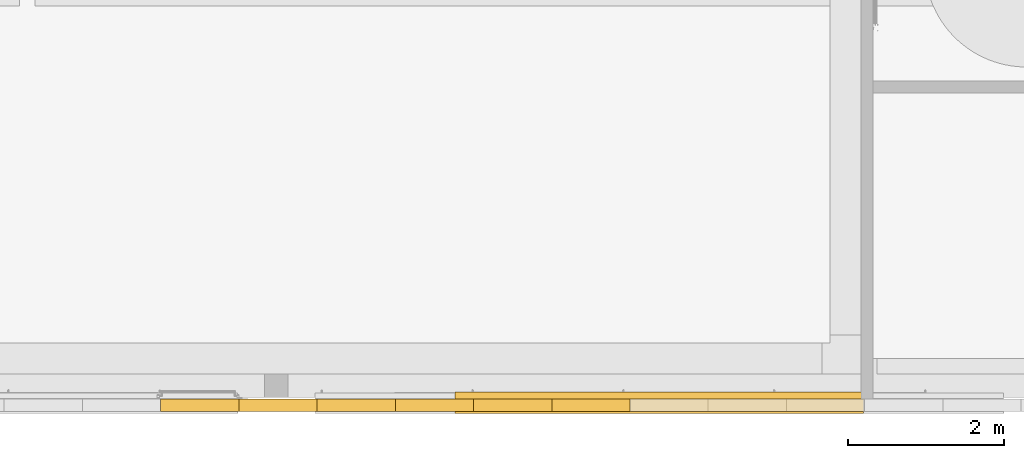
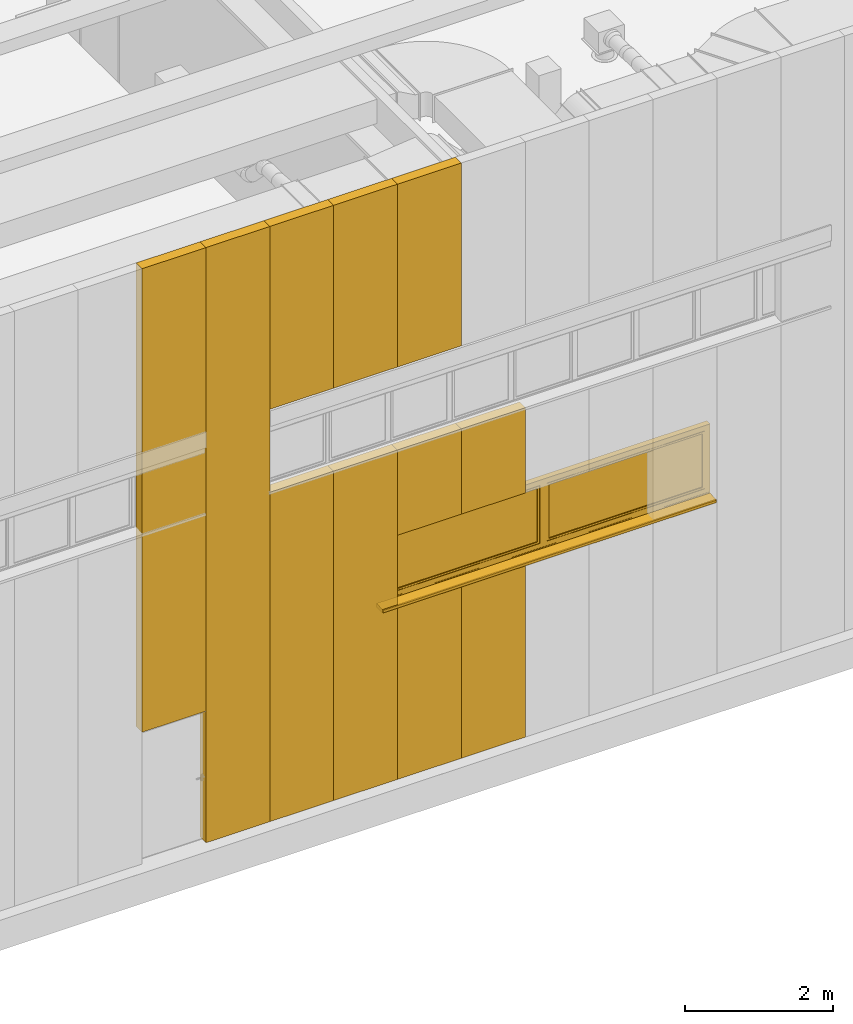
# One storey, part 223 of 302: 12 curtain walls, 1 window, 1 opening, 1 element without a shape of its own.
"""IFC2X3 building model written with IfcOpenShell, lengths in metres."""

import ifcopenshell
import ifcopenshell.guid

model = None  # the IFC model being written
_history = None  # IfcOwnerHistory: only IFC2X3 demands one
_inside = {}  # id of a spatial element -> (the spatial element, [elements in it])
_under = {}  # id of a project, library or spatial element -> (it, [spatial elements below it])
_declared = {}  # id of a project -> (the project, [libraries it declares])
_typed = {}  # id of a type object -> (the type object, [elements of that type])
_made_of = {}  # id of a material, layer set ... -> (it, [elements and type objects made of it])


def new_model(schema):
    """Start an empty IFC model of exactly this schema.

    Asked for "IFC4X3", IfcOpenShell would pick the latest addendum, in which some entities
    have other attributes; the version numbers below select the first issue.
    IFC2X3 requires an IfcOwnerHistory on every rooted entity: one is made here for all.
    """
    global model, _history
    if schema == "IFC4X3":
        model = ifcopenshell.file(schema_version=(4, 3, 0, 0))
    else:
        model = ifcopenshell.file(schema=schema)
    _inside.clear()
    _under.clear()
    _declared.clear()
    _typed.clear()
    _made_of.clear()
    _history = None
    if model.schema == "IFC2X3":
        org = make("IfcOrganization", Name="unknown")
        user = make(
            "IfcPersonAndOrganization",
            ThePerson=make("IfcPerson", FamilyName="unknown"),
            TheOrganization=org,
        )
        app = make(
            "IfcApplication",
            ApplicationDeveloper=org,
            Version="unknown",
            ApplicationFullName="unknown",
            ApplicationIdentifier="unknown",
        )
        _history = make(
            "IfcOwnerHistory",
            OwningUser=user,
            OwningApplication=app,
            ChangeAction="ADDED",
            CreationDate=0,
        )
    return model


def make(cls, **values):
    """One entity of the class cls with the attributes given. An attribute that is None is left unset."""
    return model.create_entity(
        cls, **{name: value for name, value in values.items() if value is not None}
    )


def entity(cls, *values):
    """Any entity or typed value of the class cls, its attributes in the order of the schema. None: left unset."""
    e = model.create_entity(cls)
    for i, value in enumerate(values):
        if value is not None:
            e[i] = value
    return e


def rooted(cls, **values):
    """An entity with a GlobalId (a new one), such as an element, a storey or a relation."""
    return make(cls, GlobalId=ifcopenshell.guid.new(), OwnerHistory=_history, **values)


def si_unit(unit_type, name, prefix=None):
    """IfcSIUnit, for example si_unit("LENGTHUNIT", "METRE", prefix="MILLI")."""
    return make("IfcSIUnit", UnitType=unit_type, Prefix=prefix, Name=name)


def converted_unit(unit_type, name, factor, base, dimensions=None, offset=None):
    """IfcConversionBasedUnit, such as the inch: factor (a typed value) times the base unit."""
    return make(
        "IfcConversionBasedUnit"
        if offset is None
        else "IfcConversionBasedUnitWithOffset",
        ConversionOffset=offset,
        Dimensions=None
        if dimensions is None
        else entity("IfcDimensionalExponents", *dimensions),
        UnitType=unit_type,
        Name=name,
        ConversionFactor=make(
            "IfcMeasureWithUnit", ValueComponent=factor, UnitComponent=base
        ),
    )


def derived_unit(unit_type, elements):
    """IfcDerivedUnit: a product of units, each with its exponent."""
    return make(
        "IfcDerivedUnit",
        Elements=[
            make("IfcDerivedUnitElement", Unit=unit, Exponent=power)
            for unit, power in elements
        ],
        UnitType=unit_type,
    )


def assignment(units):
    """IfcUnitAssignment: the units of a project."""
    return None if units is None else make("IfcUnitAssignment", Units=units)


def point(xyz):
    """IfcCartesianPoint."""
    return None if xyz is None else make("IfcCartesianPoint", Coordinates=xyz)


def direction(xyz):
    """IfcDirection."""
    return None if xyz is None else make("IfcDirection", DirectionRatios=xyz)


def frame(location, z_axis=None, x_axis=None):
    """IfcAxis2Placement3D, a coordinate frame: its origin and axes. An axis left out is left unset."""
    return make(
        "IfcAxis2Placement3D",
        Location=point(location),
        Axis=direction(z_axis),
        RefDirection=direction(x_axis),
    )


def frame_2d(location, x_axis=None):
    """IfcAxis2Placement2D, a coordinate frame in the plane: its origin and x axis."""
    return make(
        "IfcAxis2Placement2D", Location=point(location), RefDirection=direction(x_axis)
    )


def origin():
    """The frame at (0, 0, 0) with its axes left unset."""
    return frame((0.0, 0.0, 0.0))


def place(relative_to, where):
    """IfcLocalPlacement: puts the frame where relative to a parent placement (None: the world)."""
    return make(
        "IfcLocalPlacement", PlacementRelTo=relative_to, RelativePlacement=where
    )


def context(
    kind, dimensions, precision=None, world=None, true_north=None, identifier=None
):
    """IfcGeometricRepresentationContext, for example the 3D "Model" context."""
    return make(
        "IfcGeometricRepresentationContext",
        ContextIdentifier=identifier,
        ContextType=kind,
        CoordinateSpaceDimension=dimensions,
        Precision=precision,
        WorldCoordinateSystem=world,
        TrueNorth=true_north,
    )


def subcontext(parent, identifier, kind, view, scale=None):
    """IfcGeometricRepresentationSubContext, for example "Body" below "Model"."""
    return make(
        "IfcGeometricRepresentationSubContext",
        ContextIdentifier=identifier,
        ContextType=kind,
        ParentContext=parent,
        TargetScale=scale,
        TargetView=view,
    )


def project(units=None, contexts=None):
    """IfcProject with its units and contexts."""
    return rooted(
        "IfcProject",
        Name="project",
        RepresentationContexts=contexts,
        UnitsInContext=assignment(units),
    )


def spatial(cls, under=None, at=None, **own):
    """A site, building, storey or space (cls), placed at a placement, below another one or the project."""
    s = rooted(cls, ObjectPlacement=at, **own)
    if under is not None:
        _under.setdefault(under.id(), (under, []))[1].append(s)
    return s


def profile(cls, at=None, kind="AREA", **sizes):
    """A parametric profile (cls). Its sizes go by their IFC names, for example OverallWidth=200.0."""
    return make(cls, ProfileType=kind, Position=at, **sizes)


def rectangle(**sizes):
    """IfcRectangleProfileDef."""
    return profile("IfcRectangleProfileDef", **sizes)


def extrude(swept, where, along, depth):
    """IfcExtrudedAreaSolid: the profile swept, set in the frame where, extruded along a direction by depth."""
    return make(
        "IfcExtrudedAreaSolid",
        SweptArea=swept,
        Position=where,
        ExtrudedDirection=direction(along),
        Depth=depth,
    )


def faces_of(points, faces, orient=None, outer=None):
    """IfcFace entities. A face is a list of loops; a loop is a list of indices into points, from 0.

    orient and outer hold one flag for each loop. By default every Orientation is true, the
    first loop of a face is its IfcFaceOuterBound and the others are IfcFaceBound.
    """
    made = []
    for i, loops in enumerate(faces):
        bounds = []
        for j, loop in enumerate(loops):
            is_outer = j == 0 if outer is None else outer[i][j]
            bounds.append(
                make(
                    "IfcFaceOuterBound" if is_outer else "IfcFaceBound",
                    Bound=make("IfcPolyLoop", Polygon=[points[k] for k in loop]),
                    Orientation=True if orient is None else orient[i][j],
                )
            )
        made.append(make("IfcFace", Bounds=bounds))
    return made


def faceted_brep(points, faces, orient=None, outer=None, voids=None):
    """IfcFacetedBrep: a solid bounded by flat faces; with voids (closed shells), ...WithVoids."""
    shared = [point(p) for p in points]
    hull = make("IfcClosedShell", CfsFaces=faces_of(shared, faces, orient, outer))
    if voids is None:
        return make("IfcFacetedBrep", Outer=hull)
    return make(
        "IfcFacetedBrepWithVoids",
        Outer=hull,
        Voids=[
            make(cls, CfsFaces=faces_of(shared, fs, o, b)) for cls, fs, o, b in voids
        ],
    )


def shape(context_of_items, identifier, shape_type, items):
    """IfcShapeRepresentation: the items that make up one representation, for example the "Body"."""
    return make(
        "IfcShapeRepresentation",
        ContextOfItems=context_of_items,
        RepresentationIdentifier=identifier,
        RepresentationType=shape_type,
        Items=items,
    )


def source(mapping_origin, context_of_items, identifier, shape_type, items):
    """IfcRepresentationMap: a shape defined once, which mapped items show again and again."""
    return make(
        "IfcRepresentationMap",
        MappingOrigin=mapping_origin,
        MappedRepresentation=shape(context_of_items, identifier, shape_type, items),
    )


def transform(
    local_origin,
    x_axis=None,
    y_axis=None,
    z_axis=None,
    scale=None,
    scale2=None,
    scale3=None,
    uniform=True,
):
    """IfcCartesianTransformationOperator3D, or its non-uniform kind. x_axis, y_axis, z_axis: its Axis1, 2, 3."""
    if uniform:
        return make(
            "IfcCartesianTransformationOperator3D",
            Axis1=direction(x_axis),
            Axis2=direction(y_axis),
            LocalOrigin=point(local_origin),
            Scale=scale,
            Axis3=direction(z_axis),
        )
    return make(
        "IfcCartesianTransformationOperator3DnonUniform",
        Axis1=direction(x_axis),
        Axis2=direction(y_axis),
        LocalOrigin=point(local_origin),
        Scale=scale,
        Axis3=direction(z_axis),
        Scale2=scale2,
        Scale3=scale3,
    )


def mapped(mapping_source, mapping_target):
    """IfcMappedItem: shows the shape of a source again, moved by a transform."""
    return make(
        "IfcMappedItem", MappingSource=mapping_source, MappingTarget=mapping_target
    )


def material(Name=None, Category=None):
    """IfcMaterial."""
    return make("IfcMaterial", Name=Name, Category=Category)


def material_list(materials):
    """IfcMaterialList."""
    return make("IfcMaterialList", Materials=materials)


def layer(
    of_material, thickness, ventilated=None, Name=None, Category=None, Priority=None
):
    """IfcMaterialLayer: one layer of a wall or slab, of a material (None: an air gap)."""
    return make(
        "IfcMaterialLayer",
        Material=of_material,
        LayerThickness=thickness,
        IsVentilated=ventilated,
        Name=Name,
        Category=Category,
        Priority=Priority,
    )


def layer_set(layers, Name=None):
    """IfcMaterialLayerSet."""
    return make("IfcMaterialLayerSet", MaterialLayers=layers, LayerSetName=Name)


def layer_usage(for_layer_set, set_direction, sense, offset, extent=None):
    """IfcMaterialLayerSetUsage: how a layer set lies in its element."""
    return make(
        "IfcMaterialLayerSetUsage",
        ForLayerSet=for_layer_set,
        LayerSetDirection=set_direction,
        DirectionSense=sense,
        OffsetFromReferenceLine=offset,
        ReferenceExtent=extent,
    )


def made_of(thing, what):
    """Note that an element or type object is made of a material, layer set ...; save() writes the relation."""
    if what is not None:
        _made_of.setdefault(what.id(), (what, []))[1].append(thing)
    return thing


def type_object(cls, material=None, **own):
    """A type object (cls), such as IfcWallType, which elements share."""
    return made_of(rooted(cls, **own), material)


def type_shapes(of_type, sources):
    """Give a type object the sources (RepresentationMaps) that its elements show as mapped items."""
    of_type.RepresentationMaps = sources


def element(
    cls,
    number,
    at=None,
    inside=None,
    cuts=None,
    type_object=None,
    material=None,
    context=None,
    identifier="Body",
    shape_type=None,
    held_by="IfcProductDefinitionShape",
    body=None,
    shapes=None,
    **own,
):
    """One element of the class cls, such as IfcWall. Its Tag is "e" and its number.

    at: its placement. inside: the storey or other place that contains it. cuts: it is an
    opening in that element (IfcRelVoidsElement). A single representation is given by context,
    identifier, shape_type and body (its items); several are given by shapes. held_by: the class
    of the entity that holds the representations. save() writes the other relations.
    """
    e = rooted(cls, Tag="e%d" % number, ObjectPlacement=at, **own)
    if body is not None:
        shapes = [shape(context, identifier, shape_type, body)]
    if shapes is not None:
        e.Representation = make(held_by, Representations=shapes)
    if inside is not None:
        _inside.setdefault(inside.id(), (inside, []))[1].append(e)
    if cuts is not None:
        rooted(
            "IfcRelVoidsElement", RelatingBuildingElement=cuts, RelatedOpeningElement=e
        )
    if type_object is not None:
        _typed.setdefault(type_object.id(), (type_object, []))[1].append(e)
    return made_of(e, material)


def fill(opening, filler):
    """IfcRelFillsElement: the door or window that sits in an opening."""
    return rooted(
        "IfcRelFillsElement",
        RelatingOpeningElement=opening,
        RelatedBuildingElement=filler,
    )


def aggregate(whole, parts):
    """IfcRelAggregates: a whole, such as a stair, and the parts it consists of."""
    return rooted("IfcRelAggregates", RelatingObject=whole, RelatedObjects=parts)


def save(model, path):
    """Write the relations noted so far, then the file.

    IfcRelAggregates (storeys below a building ...), IfcRelContainedInSpatialStructure (elements
    in a storey), IfcRelDefinesByType, IfcRelAssociatesMaterial and IfcRelDeclares: one each for
    every whole, place, type object, material and project.
    """
    for whole, parts in _under.values():
        aggregate(whole, parts)
    for where, things in _inside.values():
        rooted(
            "IfcRelContainedInSpatialStructure",
            RelatedElements=things,
            RelatingStructure=where,
        )
    for kind, things in _typed.values():
        rooted("IfcRelDefinesByType", RelatedObjects=things, RelatingType=kind)
    for what, things in _made_of.values():
        rooted("IfcRelAssociatesMaterial", RelatedObjects=things, RelatingMaterial=what)
    for by, libraries in _declared.values():
        rooted("IfcRelDeclares", RelatingContext=by, RelatedDefinitions=libraries)
    model.write(path)


model = new_model("IFC2X3")

# Units and contexts
model_context = context("Model", 3, precision=1e-05, world=origin(), true_north=direction((6.12303176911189e-17, 1.0)))
body_context = subcontext(model_context, "Body", "Model", "MODEL_VIEW")
ifc_project = project(units=[si_unit("LENGTHUNIT", "METRE"), si_unit("AREAUNIT", "SQUARE_METRE"), si_unit("VOLUMEUNIT", "CUBIC_METRE"), converted_unit("PLANEANGLEUNIT", "DEGREE", entity("IfcRatioMeasure", 0.0174532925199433), si_unit("PLANEANGLEUNIT", "RADIAN"), dimensions=[0, 0, 0, 0, 0, 0, 0]), si_unit("MASSUNIT", "GRAM", prefix="KILO"), derived_unit("MASSDENSITYUNIT", [(si_unit("MASSUNIT", "GRAM", prefix="KILO"), 1), (si_unit("LENGTHUNIT", "METRE"), -3)]), derived_unit("MOMENTOFINERTIAUNIT", [(si_unit("LENGTHUNIT", "METRE"), 4)]), si_unit("TIMEUNIT", "SECOND"), si_unit("FREQUENCYUNIT", "HERTZ"), si_unit("THERMODYNAMICTEMPERATUREUNIT", "DEGREE_CELSIUS"), derived_unit("THERMALTRANSMITTANCEUNIT", [(si_unit("MASSUNIT", "GRAM", prefix="KILO"), 1), (si_unit("THERMODYNAMICTEMPERATUREUNIT", "KELVIN"), -1), (si_unit("TIMEUNIT", "SECOND"), -3)]), derived_unit("VOLUMETRICFLOWRATEUNIT", [(si_unit("LENGTHUNIT", "METRE"), 3), (si_unit("TIMEUNIT", "SECOND"), -1)]), si_unit("ELECTRICCURRENTUNIT", "AMPERE"), si_unit("ELECTRICVOLTAGEUNIT", "VOLT"), si_unit("POWERUNIT", "WATT"), si_unit("FORCEUNIT", "NEWTON", prefix="KILO"), si_unit("ILLUMINANCEUNIT", "LUX"), si_unit("LUMINOUSFLUXUNIT", "LUMEN"), si_unit("LUMINOUSINTENSITYUNIT", "CANDELA"), derived_unit("USERDEFINED", [(si_unit("MASSUNIT", "GRAM", prefix="KILO"), -1), (si_unit("LENGTHUNIT", "METRE"), -2), (si_unit("TIMEUNIT", "SECOND"), 3), (si_unit("LUMINOUSFLUXUNIT", "LUMEN"), 1)]), derived_unit("LINEARVELOCITYUNIT", [(si_unit("LENGTHUNIT", "METRE"), 1), (si_unit("TIMEUNIT", "SECOND"), -1)]), si_unit("PRESSUREUNIT", "PASCAL"), derived_unit("USERDEFINED", [(si_unit("LENGTHUNIT", "METRE"), -2), (si_unit("MASSUNIT", "GRAM", prefix="KILO"), 1), (si_unit("TIMEUNIT", "SECOND"), -2)]), derived_unit("LINEARFORCEUNIT", [(si_unit("MASSUNIT", "GRAM", prefix="KILO"), 1), (si_unit("LENGTHUNIT", "METRE"), 1), (si_unit("TIMEUNIT", "SECOND"), -2), (si_unit("LENGTHUNIT", "METRE"), -1)]), derived_unit("PLANARFORCEUNIT", [(si_unit("MASSUNIT", "GRAM", prefix="KILO"), 1), (si_unit("LENGTHUNIT", "METRE"), 1), (si_unit("TIMEUNIT", "SECOND"), -2), (si_unit("LENGTHUNIT", "METRE"), -2)])], contexts=[model_context])

# Site, building, storey
site_placement = place(None, origin())
site = spatial("IfcSite", under=ifc_project, at=site_placement, Name="Default", CompositionType="ELEMENT")
building_placement = place(site_placement, origin())
building = spatial("IfcBuilding", under=site, at=building_placement, CompositionType="ELEMENT")
storey_placement = place(building_placement, frame((0.0, 0.0, -1.3)))
storey = spatial("IfcBuildingStorey", under=building, at=storey_placement, Name="00_EG", CompositionType="ELEMENT", Elevation=-1.3)

# Curtain walls, opening, window
curtain_wall_type_1 = type_object("IfcCurtainWallType", Name="Fassade:Sandwichpaneele 16cm", PredefinedType="NOTDEFINED")
curtain_wall_1_placement = place(storey_placement, frame((0.0, 0.0, 1.3)))
curtain_wall_1 = element("IfcCurtainWall", 1, at=curtain_wall_1_placement, inside=storey, type_object=curtain_wall_type_1, Name="Fassade:Sandwichpaneele 16cm", ObjectType="Fassade:Sandwichpaneele 16cm")
ifc_material_1 = material(Name="Prepainted_Steel-ArcelorMittal_Construction_HAIRULTRA-35-CORAL-4309-[RAL_3000]")
ifc_layer_1 = layer(ifc_material_1, 0.015)
ifc_material_2 = material(Name="ArcelorMittal-MineralWool")
ifc_layer_2 = layer(ifc_material_2, 0.13)
ifc_material_3 = material(Name="Prepainted_Steel-ArcelorMittal_Construction_INTÉRIEUR-12-WHITE-912")
ifc_layer_3 = layer(ifc_material_3, 0.015)
ifc_layer_set = layer_set([ifc_layer_1, ifc_layer_2, ifc_layer_3], Name="Fassade:Sandwichpaneele 16cm")
ifc_layer_usage_1 = layer_usage(ifc_layer_set, "AXIS2", "POSITIVE", -0.08)
curtain_wall_type_2 = type_object("IfcCurtainWallType", Name="Basiswand:Sandwichpaneele d = 16cm aussen", PredefinedType="NOTDEFINED", material=ifc_layer_set)
curtain_wall_2_placement = place(storey_placement, frame((-226.840111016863, 14.898088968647, 1.27)))
curtain_wall_2 = element("IfcCurtainWall", 2, at=curtain_wall_2_placement, type_object=curtain_wall_type_2, material=ifc_layer_usage_1, Name="Basiswand:Sandwichpaneele d = 16cm aussen", ObjectType="Basiswand:Sandwichpaneele d = 16cm aussen", context=body_context, shape_type="SweptSolid", body=[
    extrude(rectangle(XDim=1.00000000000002, YDim=0.159999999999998, at=frame_2d((0.500000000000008, 0.0), x_axis=(-1.0, 0.0))), origin(), (0.0, 0.0, 1.0), 5.44999999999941),
])
ifc_layer_usage_2 = layer_usage(ifc_layer_set, "AXIS2", "POSITIVE", -0.08)
curtain_wall_3_placement = place(storey_placement, frame((-225.840111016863, 14.898088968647, 1.27)))
curtain_wall_3 = element("IfcCurtainWall", 3, at=curtain_wall_3_placement, type_object=curtain_wall_type_2, material=ifc_layer_usage_2, Name="Basiswand:Sandwichpaneele d = 16cm aussen", ObjectType="Basiswand:Sandwichpaneele d = 16cm aussen", context=body_context, shape_type="SweptSolid", body=[
    extrude(rectangle(XDim=0.999999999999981, YDim=0.159999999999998, at=frame_2d((0.49999999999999, 0.0), x_axis=(-1.0, 0.0))), origin(), (0.0, 0.0, 1.0), 5.44999999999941),
])
ifc_layer_usage_3 = layer_usage(ifc_layer_set, "AXIS2", "POSITIVE", -0.08)
curtain_wall_4_placement = place(storey_placement, frame((-224.840111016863, 14.898088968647, 1.27)))
curtain_wall_4 = element("IfcCurtainWall", 4, at=curtain_wall_4_placement, type_object=curtain_wall_type_2, material=ifc_layer_usage_3, Name="Basiswand:Sandwichpaneele d = 16cm aussen", ObjectType="Basiswand:Sandwichpaneele d = 16cm aussen", context=body_context, shape_type="SweptSolid", body=[
    extrude(rectangle(XDim=0.999999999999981, YDim=0.159999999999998, at=frame_2d((0.49999999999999, 0.0), x_axis=(-1.0, 0.0))), origin(), (0.0, 0.0, 1.0), 2.83599999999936),
])
ifc_layer_usage_4 = layer_usage(ifc_layer_set, "AXIS2", "POSITIVE", -0.08)
curtain_wall_5_placement = place(storey_placement, frame((-223.840111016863, 14.898088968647, 1.27)))
curtain_wall_5 = element("IfcCurtainWall", 5, at=curtain_wall_5_placement, type_object=curtain_wall_type_2, material=ifc_layer_usage_4, Name="Basiswand:Sandwichpaneele d = 16cm aussen", ObjectType="Basiswand:Sandwichpaneele d = 16cm aussen", context=body_context, shape_type="SweptSolid", body=[
    extrude(rectangle(XDim=1.00000000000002, YDim=0.159999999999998, at=frame_2d((0.500000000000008, 0.0), x_axis=(-1.0, 0.0))), origin(), (0.0, 0.0, 1.0), 2.83599999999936),
])
ifc_layer_usage_5 = layer_usage(ifc_layer_set, "AXIS2", "POSITIVE", -0.08)
curtain_wall_6_placement = place(storey_placement, frame((-227.840111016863, 14.898088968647, 1.27)))
curtain_wall_6 = element("IfcCurtainWall", 6, at=curtain_wall_6_placement, type_object=curtain_wall_type_2, material=ifc_layer_usage_5, Name="Basiswand:Sandwichpaneele d = 16cm aussen", ObjectType="Basiswand:Sandwichpaneele d = 16cm aussen", context=body_context, shape_type="SweptSolid", body=[
    extrude(rectangle(XDim=1.00000000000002, YDim=0.159999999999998, at=frame_2d((0.500000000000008, 0.0), x_axis=(-1.0, 0.0))), origin(), (0.0, 0.0, 1.0), 9.8509),
])
ifc_layer_usage_6 = layer_usage(ifc_layer_set, "AXIS2", "POSITIVE", -0.08)
curtain_wall_7_placement = place(storey_placement, frame((-225.076361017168, 14.898088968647, 4.10599999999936)))
curtain_wall_7 = element("IfcCurtainWall", 7, at=curtain_wall_7_placement, type_object=curtain_wall_type_2, material=ifc_layer_usage_6, Name="Basiswand:Sandwichpaneele d = 16cm aussen", ObjectType="Basiswand:Sandwichpaneele d = 16cm aussen", context=body_context, shape_type="SweptSolid", body=[
    extrude(rectangle(XDim=5.21999999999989, YDim=0.159999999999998, at=frame_2d((2.60999999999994, 0.0), x_axis=(-1.0, 0.0))), origin(), (0.0, 0.0, 1.0), 0.0640000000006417),
])
opening_placement = place(curtain_wall_7_placement, frame((0.0, -0.0800000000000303, 0.0540000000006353)))
opening = element("IfcOpeningElement", 8, at=opening_placement, cuts=curtain_wall_7, Name="Basiswand:Sandwichpaneele d = 16cm aussen", ObjectType="Opening", context=body_context, shape_type="Brep", body=[
    faceted_brep([(0.0, 0.160000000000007, 1.14999999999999), (5.22000000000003, 0.159999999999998, 1.14999999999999), (5.22000000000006, 0.16, 0.0100000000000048), (0.0, 0.160000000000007, 0.0100000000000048), (0.0, 0.0, 1.14999999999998), (0.0, 0.0, 0.0), (5.21999999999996, 0.0, 0.0), (5.21999999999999, 0.0, 1.14999999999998)], [[[0, 1, 2, 3]], [[4, 5, 6, 7]], [[5, 4, 0, 3]], [[6, 5, 3, 2]], [[7, 6, 2, 1]], [[4, 7, 1, 0]]]),
])
ifc_material_4 = material(Name="Glass")
ifc_material_5 = material(Name="Aluminium")
ifc_material_6 = material(Name="Holz - generisch 140-100-70")
ifc_material_list_1 = material_list([ifc_material_1, ifc_material_4, ifc_material_5, ifc_material_6])
ifc_material_7 = material(Name="<Unnamed>")
ifc_material_list_2 = material_list([ifc_material_1, ifc_material_4, ifc_material_7, ifc_material_5])
window_style = type_object("IfcWindowStyle", Name="FE 2 tlg - konfigurierbar:Fenster 2 tgl 5220 x 1240", ConstructionType="NOTDEFINED", OperationType="NOTDEFINED", ParameterTakesPrecedence=False, Sizeable=False, material=ifc_material_list_2)
shared_shape = source(origin(), body_context, "Body", "Brep", [
    faceted_brep([(5.1, -0.089999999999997, 1.02999999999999), (5.1, 0.0, 1.02999999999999), (5.1, 0.0, 0.139999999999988), (5.1, -0.0899999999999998, 0.139999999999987), (5.13, 0.0, 0.109999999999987), (2.67, 0.0, 0.109999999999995), (2.67, 0.0, 1.05999999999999), (5.13, 0.0, 1.05999999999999), (2.7, 0.0, 1.02999999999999), (2.7, 0.0, 0.139999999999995), (2.7, -0.0899999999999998, 0.139999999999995), (2.7, -0.089999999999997, 1.02999999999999), (5.17, -0.0899999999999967, 1.09999999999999), (2.63, -0.0899999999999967, 1.09999999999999), (2.63, -0.0899999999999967, 0.0699999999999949), (5.17, -0.0899999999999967, 0.0699999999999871), (5.17, -0.074999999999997, 1.09999999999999), (5.17, -0.0750000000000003, 0.0699999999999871), (2.63, -0.0750000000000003, 0.0699999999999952), (2.63, -0.074999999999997, 1.09999999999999), (5.155, -0.0749999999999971, 1.08499999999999), (2.645, -0.0749999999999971, 1.08499999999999), (2.645, -0.0749999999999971, 0.0849999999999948), (5.155, -0.0749999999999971, 0.0849999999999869), (5.155, -0.0449999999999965, 1.08499999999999), (5.155, -0.0449999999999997, 0.0849999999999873), (2.645, -0.0449999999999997, 0.084999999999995), (2.645, -0.0449999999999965, 1.08499999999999), (5.145, -0.0449999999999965, 1.07499999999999), (2.655, -0.0449999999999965, 1.07499999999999), (2.655, -0.0449999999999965, 0.0949999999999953), (5.145, -0.0449999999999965, 0.0949999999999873), (5.145, -0.0149999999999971, 1.07499999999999), (5.145, -0.0150000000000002, 0.0949999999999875), (2.655, -0.0150000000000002, 0.0949999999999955), (2.655, -0.0149999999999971, 1.07499999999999), (5.13, -0.0149999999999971, 1.05999999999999), (2.67, -0.0149999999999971, 1.05999999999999), (2.67, -0.0149999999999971, 0.109999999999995), (5.13, -0.0149999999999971, 0.109999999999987)], [[[0, 1, 2, 3]], [[4, 5, 6, 7], [1, 8, 9, 2]], [[3, 2, 9, 10]], [[3, 10, 11, 0], [12, 13, 14, 15]], [[16, 12, 15, 17]], [[17, 15, 14, 18]], [[17, 18, 19, 16], [20, 21, 22, 23]], [[24, 20, 23, 25]], [[25, 23, 22, 26]], [[25, 26, 27, 24], [28, 29, 30, 31]], [[32, 28, 31, 33]], [[33, 31, 30, 34]], [[33, 34, 35, 32], [36, 37, 38, 39]], [[7, 36, 39, 4]], [[4, 39, 38, 5]], [[10, 9, 8, 11]], [[18, 14, 13, 19]], [[26, 22, 21, 27]], [[34, 30, 29, 35]], [[5, 38, 37, 6]], [[11, 8, 1, 0]], [[19, 13, 12, 16]], [[27, 21, 20, 24]], [[35, 29, 28, 32]], [[6, 37, 36, 7]]], outer=[[True], [True, False], [True], [False, True], [True], [True], [True, False], [True], [True], [True, False], [True], [True], [True, False], [True], [True], [True], [True], [True], [True], [True], [True], [True], [True], [True], [True]]),
    faceted_brep([(5.10000000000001, -0.0149999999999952, 0.140000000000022), (5.10000000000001, -0.0589999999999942, 0.140000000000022), (2.69999999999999, -0.0589999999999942, 0.14000000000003), (2.69999999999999, -0.0149999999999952, 0.14000000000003), (5.10000000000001, -0.0149999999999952, 1.03), (5.10000000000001, -0.0589999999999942, 1.03), (2.69999999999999, -0.0589999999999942, 1.03), (2.69999999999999, -0.0149999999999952, 1.03)], [[[0, 1, 2, 3]], [[4, 5, 1, 0]], [[5, 6, 2, 1]], [[6, 7, 3, 2]], [[7, 4, 0, 3]], [[4, 7, 6, 5]]]),
    faceted_brep([(0.0, 0.182000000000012, 0.000625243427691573), (0.0, 0.160000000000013, 0.0020002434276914), (0.0, 0.00200000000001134, 0.011875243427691), (5.22, 0.00200000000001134, 0.011875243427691), (5.22, 0.160000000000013, 0.0020002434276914), (5.22, 0.182000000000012, 0.000625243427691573), (0.0, 0.182000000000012, -0.0393747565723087), (5.22, 0.182000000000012, -0.0393747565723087), (0.0, 0.170000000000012, -0.0393747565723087), (5.22, 0.170000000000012, -0.0393747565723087), (0.0, 0.170000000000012, -0.0373747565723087), (5.22, 0.170000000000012, -0.0373747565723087), (0.0, 0.180000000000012, -0.0373747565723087), (5.22, 0.180000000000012, -0.0373747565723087), (0.0, 0.180000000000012, -0.0012499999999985), (5.22, 0.180000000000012, -0.0012499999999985), (0.0, 0.160000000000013, 0.0), (5.22, 0.160000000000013, 0.0), (5.22, 0.0, 0.0100000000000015), (0.0, 0.0, 0.0100000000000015), (0.0, 0.0, 0.0300000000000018), (5.22, 0.0, 0.0300000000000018), (0.0, 0.00200000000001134, 0.0300000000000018), (5.22, 0.00200000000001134, 0.0300000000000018)], [[[0, 1, 2, 3, 4, 5]], [[6, 0, 5, 7]], [[8, 6, 7, 9]], [[10, 8, 9, 11]], [[12, 10, 11, 13]], [[14, 12, 13, 15]], [[16, 14, 15, 17, 18, 19]], [[20, 19, 18, 21]], [[22, 20, 21, 23]], [[2, 22, 23, 3]], [[16, 1, 0, 6, 8, 10, 12, 14]], [[17, 4, 3, 23, 21, 18]], [[1, 16, 19, 20, 22, 2]], [[4, 17, 15, 13, 11, 9, 7, 5]]]),
    faceted_brep([(2.52000000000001, -0.0899999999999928, 1.03), (2.52000000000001, 0.0, 1.03), (2.52000000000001, 0.0, 0.139999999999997), (2.52000000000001, -0.0899999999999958, 0.139999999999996), (2.55000000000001, 0.0, 0.109999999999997), (0.0900000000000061, 0.0, 0.110000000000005), (0.0900000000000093, 0.0, 1.06), (2.55000000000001, 0.0, 1.06), (0.120000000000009, 0.0, 1.03), (0.120000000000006, 0.0, 0.140000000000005), (0.120000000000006, -0.0899999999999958, 0.140000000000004), (0.120000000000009, -0.0899999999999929, 1.03), (2.59000000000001, -0.0899999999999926, 1.1), (0.0500000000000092, -0.0899999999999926, 1.1), (0.050000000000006, -0.0899999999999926, 0.0700000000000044), (2.59000000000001, -0.0899999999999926, 0.0699999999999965), (2.59000000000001, -0.0749999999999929, 1.1), (2.59000000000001, -0.0749999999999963, 0.0699999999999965), (0.050000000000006, -0.0749999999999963, 0.0700000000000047), (0.0500000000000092, -0.0749999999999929, 1.1), (2.57500000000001, -0.074999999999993, 1.085), (0.0650000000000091, -0.074999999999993, 1.085), (0.0650000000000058, -0.074999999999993, 0.0850000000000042), (2.57500000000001, -0.074999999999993, 0.0849999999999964), (2.57500000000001, -0.0449999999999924, 1.085), (2.57500000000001, -0.0449999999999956, 0.0849999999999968), (0.0650000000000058, -0.0449999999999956, 0.0850000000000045), (0.0650000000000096, -0.0449999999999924, 1.085), (2.56500000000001, -0.0449999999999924, 1.075), (0.0750000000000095, -0.0449999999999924, 1.075), (0.0750000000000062, -0.0449999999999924, 0.0950000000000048), (2.56500000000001, -0.0449999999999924, 0.0949999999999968), (2.56500000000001, -0.014999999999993, 1.075), (2.56500000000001, -0.0149999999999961, 0.0949999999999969), (0.0750000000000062, -0.0149999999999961, 0.0950000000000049), (0.0750000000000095, -0.014999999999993, 1.075), (2.55000000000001, -0.014999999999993, 1.06), (0.0900000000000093, -0.014999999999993, 1.06), (0.0900000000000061, -0.014999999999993, 0.110000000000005), (2.55000000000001, -0.014999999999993, 0.109999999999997)], [[[0, 1, 2, 3]], [[4, 5, 6, 7], [1, 8, 9, 2]], [[3, 2, 9, 10]], [[3, 10, 11, 0], [12, 13, 14, 15]], [[16, 12, 15, 17]], [[17, 15, 14, 18]], [[17, 18, 19, 16], [20, 21, 22, 23]], [[24, 20, 23, 25]], [[25, 23, 22, 26]], [[25, 26, 27, 24], [28, 29, 30, 31]], [[32, 28, 31, 33]], [[33, 31, 30, 34]], [[33, 34, 35, 32], [36, 37, 38, 39]], [[7, 36, 39, 4]], [[4, 39, 38, 5]], [[10, 9, 8, 11]], [[18, 14, 13, 19]], [[26, 22, 21, 27]], [[34, 30, 29, 35]], [[5, 38, 37, 6]], [[11, 8, 1, 0]], [[19, 13, 12, 16]], [[27, 21, 20, 24]], [[35, 29, 28, 32]], [[6, 37, 36, 7]]], outer=[[True], [True, False], [True], [False, True], [True], [True], [True, False], [True], [True], [True, False], [True], [True], [True, False], [True], [True], [True], [True], [True], [True], [True], [True], [True], [True], [True], [True]]),
    faceted_brep([(2.52000000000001, -0.0149999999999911, 0.140000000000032), (2.52000000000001, -0.0589999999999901, 0.140000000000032), (0.119999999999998, -0.0589999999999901, 0.14000000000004), (0.119999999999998, -0.0149999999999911, 0.14000000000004), (2.52000000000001, -0.0149999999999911, 1.03000000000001), (2.52000000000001, -0.0589999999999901, 1.03000000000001), (0.120000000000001, -0.0589999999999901, 1.03000000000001), (0.120000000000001, -0.0149999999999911, 1.03000000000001)], [[[0, 1, 2, 3]], [[4, 5, 1, 0]], [[5, 6, 2, 1]], [[6, 7, 3, 2]], [[7, 4, 0, 3]], [[4, 7, 6, 5]]]),
    faceted_brep([(5.22, 0.0, 0.010000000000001), (5.22, -0.0899999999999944, 0.010000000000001), (0.0, -0.0899999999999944, 0.010000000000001), (0.0, 0.0, 0.010000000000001), (5.22, 0.0, 1.14999999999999), (5.22, -0.0899999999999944, 1.14999999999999), (5.17499999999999, -0.0899999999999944, 1.10499999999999), (5.17499999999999, -0.0899999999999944, 0.0650000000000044), (2.625, -0.0899999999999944, 0.0650000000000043), (2.625, -0.0899999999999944, 1.10499999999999), (2.59500000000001, -0.0899999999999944, 1.10499999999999), (2.59500000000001, -0.0899999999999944, 0.0650000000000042), (0.0450000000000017, -0.0899999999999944, 0.0650000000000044), (0.0450000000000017, -0.0899999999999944, 1.10499999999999), (0.0, -0.0899999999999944, 1.14999999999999), (0.0, 0.0, 1.14999999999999), (2.55500000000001, 0.0, 0.105000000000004), (2.55500000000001, 0.0, 1.06499999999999), (0.0850000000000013, 0.0, 1.06499999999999), (0.0850000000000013, 0.0, 0.105000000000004), (5.13499999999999, 0.0, 0.105000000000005), (5.13499999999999, 0.0, 1.06499999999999), (2.665, 0.0, 1.06499999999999), (2.665, 0.0, 0.105000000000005), (5.13499999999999, -0.0150000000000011, 0.105000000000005), (5.13499999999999, -0.0150000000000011, 1.06499999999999), (2.665, -0.0149999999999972, 0.105000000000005), (2.665, -0.0149999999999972, 1.06499999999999), (2.55500000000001, -0.014999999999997, 0.105000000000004), (2.55500000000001, -0.014999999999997, 1.06499999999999), (0.0850000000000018, -0.0149999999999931, 0.105000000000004), (0.0850000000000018, -0.0149999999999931, 1.06499999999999), (5.17499999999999, -0.0750000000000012, 1.10499999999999), (5.17499999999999, -0.0750000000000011, 0.0650000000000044), (2.625, -0.0749999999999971, 0.0650000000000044), (2.625, -0.0749999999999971, 1.10499999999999), (2.59500000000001, -0.0749999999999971, 1.10499999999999), (2.59500000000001, -0.0749999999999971, 0.0650000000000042), (0.0450000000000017, -0.074999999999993, 0.0650000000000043), (0.0450000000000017, -0.074999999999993, 1.10499999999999), (5.15999999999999, -0.0750000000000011, 1.08999999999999), (5.15999999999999, -0.0750000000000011, 0.0800000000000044), (2.64, -0.0749999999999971, 0.0800000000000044), (2.64, -0.0749999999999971, 1.08999999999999), (5.15999999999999, -0.0450000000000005, 0.0800000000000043), (5.15999999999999, -0.0450000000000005, 1.08999999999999), (2.64, -0.0449999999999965, 1.08999999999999), (2.64, -0.0449999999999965, 0.0800000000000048), (5.14999999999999, -0.0450000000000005, 1.07999999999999), (5.14999999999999, -0.0450000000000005, 0.0900000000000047), (2.65, -0.0449999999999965, 0.0900000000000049), (2.65, -0.0449999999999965, 1.07999999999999), (5.14999999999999, -0.0150000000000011, 0.0900000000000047), (5.14999999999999, -0.0150000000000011, 1.07999999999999), (2.65, -0.0149999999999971, 1.07999999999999), (2.65, -0.0149999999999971, 0.0900000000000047), (2.58000000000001, -0.0749999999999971, 1.08999999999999), (2.58000000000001, -0.074999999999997, 0.0800000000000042), (0.0600000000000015, -0.074999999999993, 0.0800000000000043), (0.0600000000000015, -0.0749999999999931, 1.08999999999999), (2.58000000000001, -0.0449999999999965, 0.0800000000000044), (2.58000000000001, -0.0449999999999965, 1.08999999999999), (0.0600000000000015, -0.0449999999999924, 1.08999999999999), (0.0600000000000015, -0.0449999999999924, 0.0800000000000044), (2.57000000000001, -0.0449999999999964, 1.07999999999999), (2.57000000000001, -0.0449999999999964, 0.0900000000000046), (0.070000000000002, -0.0449999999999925, 0.0900000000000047), (0.070000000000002, -0.0449999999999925, 1.07999999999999), (2.57000000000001, -0.014999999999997, 0.0900000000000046), (2.57, -0.014999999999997, 1.07999999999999), (0.070000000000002, -0.014999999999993, 1.07999999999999), (0.0700000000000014, -0.014999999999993, 0.0900000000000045)], [[[0, 1, 2, 3]], [[4, 5, 1, 0]], [[6, 7, 8, 9], [10, 11, 12, 13], [5, 14, 2, 1]], [[14, 15, 3, 2]], [[16, 17, 18, 19], [20, 21, 22, 23], [15, 4, 0, 3]], [[20, 24, 25, 21]], [[26, 23, 22, 27]], [[24, 20, 23, 26]], [[16, 28, 29, 17]], [[30, 19, 18, 31]], [[28, 16, 19, 30]], [[32, 33, 7, 6]], [[7, 33, 34, 8]], [[8, 34, 35, 9]], [[36, 37, 11, 10]], [[11, 37, 38, 12]], [[12, 38, 39, 13]], [[33, 32, 35, 34], [40, 41, 42, 43]], [[44, 45, 46, 47], [48, 49, 50, 51]], [[45, 44, 41, 40]], [[41, 44, 47, 42]], [[25, 24, 26, 27], [52, 53, 54, 55]], [[53, 52, 49, 48]], [[49, 52, 55, 50]], [[42, 47, 46, 43]], [[50, 55, 54, 51]], [[37, 36, 39, 38], [56, 57, 58, 59]], [[60, 61, 62, 63], [64, 65, 66, 67]], [[61, 60, 57, 56]], [[57, 60, 63, 58]], [[29, 28, 30, 31], [68, 69, 70, 71]], [[69, 68, 65, 64]], [[65, 68, 71, 66]], [[58, 63, 62, 59]], [[66, 71, 70, 67]], [[4, 15, 14, 5]], [[32, 6, 9, 35]], [[45, 40, 43, 46]], [[53, 48, 51, 54]], [[21, 25, 27, 22]], [[36, 10, 13, 39]], [[61, 56, 59, 62]], [[69, 64, 67, 70]], [[17, 29, 31, 18]]], outer=[[True], [True], [False, False, True], [True], [False, False, True], [True], [True], [True], [True], [True], [True], [True], [True], [True], [True], [True], [True], [True, False], [True, False], [True], [True], [False, True], [True], [True], [True], [True], [True, False], [True, False], [True], [True], [False, True], [True], [True], [True], [True], [True], [True], [True], [True], [True], [True], [True], [True], [True]]),
    faceted_brep([(0.0, -0.0899999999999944, 0.0350000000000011), (5.22, -0.0899999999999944, 0.035000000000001), (5.22, 0.0, 0.035000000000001), (0.0, 0.0, 0.0350000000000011), (0.0, -0.0899999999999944, 0.0100000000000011), (0.0, 0.0, 0.0100000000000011), (5.22, 0.0, 0.010000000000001), (5.22, -0.0899999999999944, 0.010000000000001)], [[[0, 1, 2, 3]], [[4, 5, 6, 7]], [[0, 3, 5, 4]], [[3, 2, 6, 5]], [[2, 1, 7, 6]], [[1, 0, 4, 7]]]),
])
type_shapes(window_style, [shared_shape])
window_placement = place(opening_placement, frame((5.21999999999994, 0.160000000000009, 0.0), z_axis=(0.0, 0.0, 1.0), x_axis=(-1.0, 0.0, 0.0)))
window = element("IfcWindow", 9, at=window_placement, inside=storey, type_object=window_style, material=ifc_material_list_1, Name="FE 2 tlg - konfigurierbar:Fenster 2 tgl 5220 x 1240", ObjectType="FE 2 tlg - konfigurierbar:Fenster 2 tgl 5220 x 1240", OverallHeight=1.99, OverallWidth=5.22000000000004, context=body_context, shape_type="MappedRepresentation", body=[
    mapped(shared_shape, transform((0.0, 0.0, 0.0), scale=1.0)),
])
fill(opening, window)
ifc_layer_usage_7 = layer_usage(ifc_layer_set, "AXIS2", "POSITIVE", -0.08)
curtain_wall_8_placement = place(storey_placement, frame((-224.840111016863, 14.898088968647, 5.31000000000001)))
curtain_wall_8 = element("IfcCurtainWall", 10, at=curtain_wall_8_placement, type_object=curtain_wall_type_2, material=ifc_layer_usage_7, Name="Basiswand:Sandwichpaneele d = 16cm aussen", ObjectType="Basiswand:Sandwichpaneele d = 16cm aussen", context=body_context, shape_type="SweptSolid", body=[
    extrude(rectangle(XDim=0.999999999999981, YDim=0.159999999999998, at=frame_2d((0.49999999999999, 0.0), x_axis=(-1.0, 0.0))), origin(), (0.0, 0.0, 1.0), 1.40999999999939),
])
ifc_layer_usage_8 = layer_usage(ifc_layer_set, "AXIS2", "POSITIVE", -0.08)
curtain_wall_9_placement = place(storey_placement, frame((-223.840111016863, 14.898088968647, 5.31000000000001)))
curtain_wall_9 = element("IfcCurtainWall", 11, at=curtain_wall_9_placement, type_object=curtain_wall_type_2, material=ifc_layer_usage_8, Name="Basiswand:Sandwichpaneele d = 16cm aussen", ObjectType="Basiswand:Sandwichpaneele d = 16cm aussen", context=body_context, shape_type="SweptSolid", body=[
    extrude(rectangle(XDim=1.00000000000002, YDim=0.159999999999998, at=frame_2d((0.500000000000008, 0.0), x_axis=(-1.0, 0.0))), origin(), (0.0, 0.0, 1.0), 1.40999999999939),
])
ifc_layer_usage_9 = layer_usage(ifc_layer_set, "AXIS2", "POSITIVE", -0.08)
curtain_wall_10_placement = place(storey_placement, frame((-228.840111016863, 14.898088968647, 3.45)))
curtain_wall_10 = element("IfcCurtainWall", 12, at=curtain_wall_10_placement, type_object=curtain_wall_type_2, material=ifc_layer_usage_9, Name="Basiswand:Sandwichpaneele d = 16cm aussen", ObjectType="Basiswand:Sandwichpaneele d = 16cm aussen", context=body_context, shape_type="SweptSolid", body=[
    extrude(rectangle(XDim=0.999999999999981, YDim=0.159999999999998, at=frame_2d((0.49999999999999, 0.0), x_axis=(-1.0, 0.0))), origin(), (0.0, 0.0, 1.0), 7.6709),
])
ifc_layer_usage_10 = layer_usage(ifc_layer_set, "AXIS2", "POSITIVE", -0.08)
curtain_wall_11_placement = place(storey_placement, frame((-226.840111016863, 14.898088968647, 8.09499999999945)))
curtain_wall_11 = element("IfcCurtainWall", 13, at=curtain_wall_11_placement, type_object=curtain_wall_type_2, material=ifc_layer_usage_10, Name="Basiswand:Sandwichpaneele d = 16cm aussen", ObjectType="Basiswand:Sandwichpaneele d = 16cm aussen", context=body_context, shape_type="SweptSolid", body=[
    extrude(rectangle(XDim=1.00000000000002, YDim=0.159999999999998, at=frame_2d((0.500000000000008, 0.0), x_axis=(-1.0, 0.0))), origin(), (0.0, 0.0, 1.0), 3.02590000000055),
])
ifc_layer_usage_11 = layer_usage(ifc_layer_set, "AXIS2", "POSITIVE", -0.08)
curtain_wall_12_placement = place(storey_placement, frame((-225.840111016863, 14.898088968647, 8.09499999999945)))
curtain_wall_12 = element("IfcCurtainWall", 14, at=curtain_wall_12_placement, type_object=curtain_wall_type_2, material=ifc_layer_usage_11, Name="Basiswand:Sandwichpaneele d = 16cm aussen", ObjectType="Basiswand:Sandwichpaneele d = 16cm aussen", context=body_context, shape_type="SweptSolid", body=[
    extrude(rectangle(XDim=0.999999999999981, YDim=0.159999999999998, at=frame_2d((0.49999999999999, 0.0), x_axis=(-1.0, 0.0))), origin(), (0.0, 0.0, 1.0), 3.02590000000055),
])
ifc_layer_usage_12 = layer_usage(ifc_layer_set, "AXIS2", "POSITIVE", -0.08)
curtain_wall_13_placement = place(storey_placement, frame((-224.840111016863, 14.898088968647, 8.09499999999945)))
curtain_wall_13 = element("IfcCurtainWall", 15, at=curtain_wall_13_placement, type_object=curtain_wall_type_2, material=ifc_layer_usage_12, Name="Basiswand:Sandwichpaneele d = 16cm aussen", ObjectType="Basiswand:Sandwichpaneele d = 16cm aussen", context=body_context, shape_type="SweptSolid", body=[
    extrude(rectangle(XDim=0.999999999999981, YDim=0.159999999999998, at=frame_2d((0.49999999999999, 0.0), x_axis=(-1.0, 0.0))), origin(), (0.0, 0.0, 1.0), 3.02590000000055),
])
aggregate(curtain_wall_1, [curtain_wall_2, curtain_wall_3, curtain_wall_4, curtain_wall_5, curtain_wall_6, curtain_wall_7, curtain_wall_8, curtain_wall_9, curtain_wall_10, curtain_wall_11, curtain_wall_12, curtain_wall_13])

save(model, "model.ifc")
